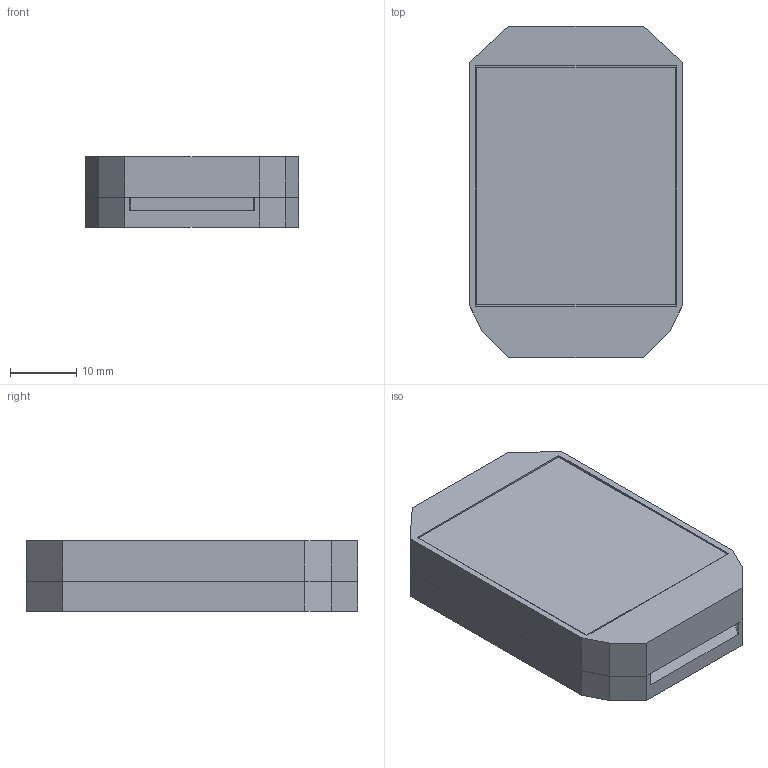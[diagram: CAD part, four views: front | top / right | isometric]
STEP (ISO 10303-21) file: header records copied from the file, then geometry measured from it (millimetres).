
FILE_DESCRIPTION(('Open CASCADE Model'),'2;1');
FILE_NAME('Open CASCADE Shape Model','2026-09-30T23:04:28',('Author'),( 'Open CASCADE'),'Open CASCADE STEP processor 8.0','Open CASCADE 8.0' ,'Unknown');
FILE_SCHEMA(('AP242_MANAGED_MODEL_BASED_3D_ENGINEERING_MIM_LF {1 0 10303 442 1 1 4 }' ));
Length unit declared in the file: millimetre
Products named in the file (3): MSV4 Minimum Profile Adhesive Base; MSV4 Minimum Profile Adhesive Solar Lid; 36 x 30 mm Solar Panel Reference - Do Not Print
Bounding box: 32.4 x 50.2 x 10.65 mm (x, y, z)
Volume: 7692.8 mm3; surface area: 11298.7 mm2
Topology: 3 solids, 3 shells, 64 faces, 168 edges, 112 vertices
Faces by surface type: plane 58, extrusion 4, cylinder 2
Full cylindrical faces by diameter (mm): 1.6 x2
Entity records: 5073 total; most frequent: CARTESIAN_POINT 1737, DIRECTION 550, VECTOR 416, LINE 412, ORIENTED_EDGE 336, PCURVE 336, DEFINITIONAL_REPRESENTATION 336, EDGE_CURVE 168
